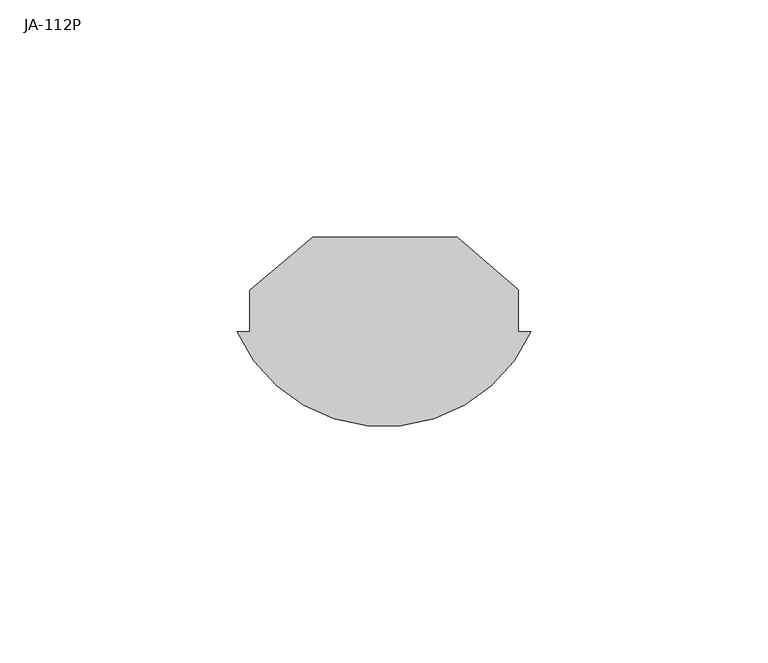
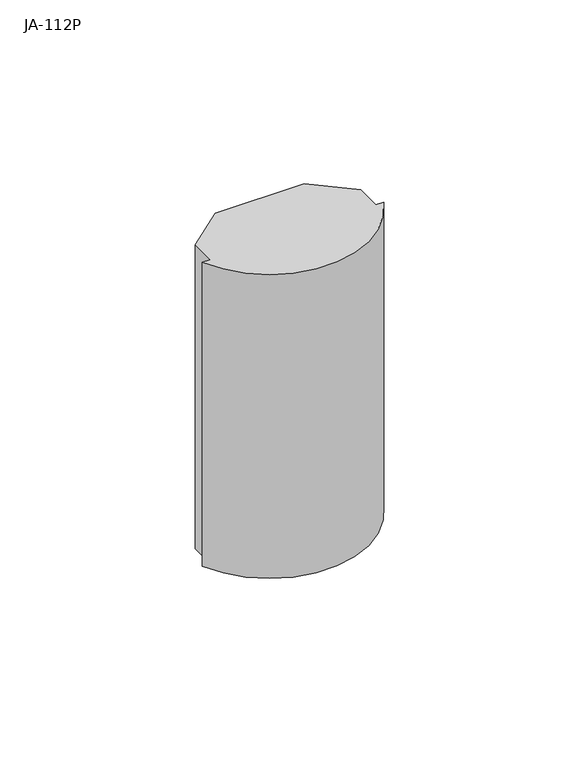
"""IFC4 building model written with IfcOpenShell, lengths in millimetres: proxy geometry, PIR detektory.CC : JA-112P."""

from ifc_helpers import new_model, si_unit, point, frame, frame_2d, origin, place, context, project, spatial, polyline, circle_curve, trimmed, segment, composite_curve, outline, extrude, source, transform, mapped, element, save


def ja_112p_35f2c3f1(model_context):
    return source(origin(), model_context, "Body", "SweptSolid", [
        extrude(outline(composite_curve([segment(trimmed(circle_curve(frame_2d((0.0, -5.975)), 34.025), [point((31.0, -20.0))], [point((-31.0, -20.0))], False, "CARTESIAN"), True, "CONTINUOUS"), segment(polyline([(-31.0, -20.0), (-28.3127665, -20.0), (-28.3127665, -11.2358301), (-15.0, 0.0), (15.4214911, 0.0), (28.3127665, -11.0753807), (28.3127665, -20.0), (31.0, -20.0)]), True, "CONTINUOUS")], self_intersect=False)), frame((0.0, 0.0, -55.0), z_axis=(0.0, 0.0, 1.0), x_axis=(1.0, 0.0, 0.0)), (0.0, 0.0, 1.0), 110.0),
    ])


if __name__ == "__main__":
    model = new_model("IFC4")
    model_context = context("Model", 3, world=origin())
    ifc_project = project(units=[si_unit("LENGTHUNIT", "METRE", prefix="MILLI")], contexts=[model_context])
    site = spatial("IfcSite", under=ifc_project)
    building = spatial("IfcBuilding", under=site)
    placement = place(None, origin())
    ja_112p_shape = ja_112p_35f2c3f1(model_context)
    element("IfcBuildingElementProxy", 1, Name="PIR detektory.CC : JA-112P", ObjectType="PIR detektory.CC : JA-112P", at=placement, inside=building, context=model_context, shape_type="MappedRepresentation", body=[
        mapped(ja_112p_shape, transform((0.0, 0.0, 0.0), x_axis=(1.0, 0.0, 0.0), y_axis=(0.0, 1.0, 0.0), z_axis=(0.0, 0.0, 1.0))),
    ])
    save(model, "model.ifc")
